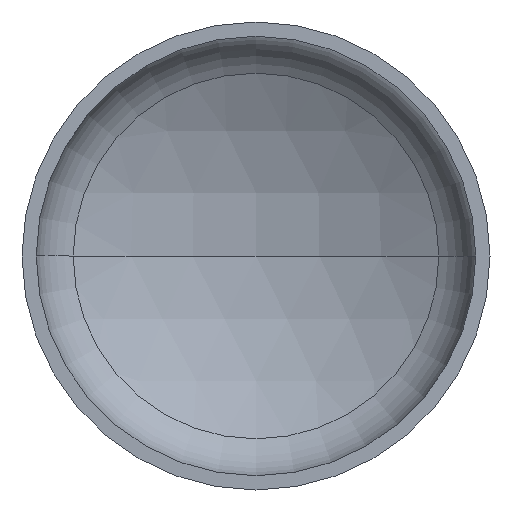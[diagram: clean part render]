
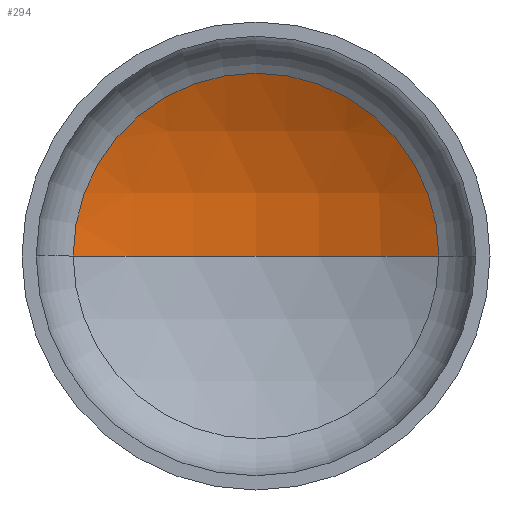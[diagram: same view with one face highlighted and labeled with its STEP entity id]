
A CAD part, front view. The second image highlights one B-rep face of the part: STEP entity #294.
In plain terms, the highlighted spherical face has radius 3040 mm.
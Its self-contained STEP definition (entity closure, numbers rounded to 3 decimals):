
#10 = CARTESIAN_POINT ( 'NONE',  ( 1484.709, 585.486, 0. ) ) ;
#12 = AXIS2_PLACEMENT_3D ( 'NONE', #223, #112, #386 ) ;
#15 = AXIS2_PLACEMENT_3D ( 'NONE', #248, #409, #181 ) ;
#16 = AXIS2_PLACEMENT_3D ( 'NONE', #144, #347, #350 ) ;
#20 = EDGE_LOOP ( 'NONE', ( #94, #87, #402 ) ) ;
#23 = AXIS2_PLACEMENT_3D ( 'NONE', #244, #145, #55 ) ;
#55 = DIRECTION ( 'NONE',  ( -1., 0., 0. ) ) ;
#87 = ORIENTED_EDGE ( 'NONE', *, *, #342, .T. ) ;
#94 = ORIENTED_EDGE ( 'NONE', *, *, #348, .F. ) ;
#103 = VERTEX_POINT ( 'NONE', #207 ) ;
#105 = VERTEX_POINT ( 'NONE', #202 ) ;
#112 = DIRECTION ( 'NONE',  ( 0., 0., 1. ) ) ;
#132 = FACE_OUTER_BOUND ( 'NONE', #20, .T. ) ;
#144 = CARTESIAN_POINT ( 'NONE',  ( 0., 585.486, 0. ) ) ;
#145 = DIRECTION ( 'NONE',  ( 0., 0., -1. ) ) ;
#169 = VERTEX_POINT ( 'NONE', #10 ) ;
#181 = DIRECTION ( 'NONE',  ( -1., 0., 0. ) ) ;
#202 = CARTESIAN_POINT ( 'NONE',  ( 0., 972.706, 0. ) ) ;
#207 = CARTESIAN_POINT ( 'NONE',  ( -1484.709, 585.486, 0. ) ) ;
#223 = CARTESIAN_POINT ( 'NONE',  ( 0., -2067.294, 0. ) ) ;
#224 = CIRCLE ( 'NONE', #16, 1484.709 ) ;
#244 = CARTESIAN_POINT ( 'NONE',  ( 0., -2067.294, 0. ) ) ;
#248 = CARTESIAN_POINT ( 'NONE',  ( 0., -2067.294, 0. ) ) ;
#281 = CIRCLE ( 'NONE', #12, 3040. ) ;
#290 = SPHERICAL_SURFACE ( 'NONE', #23, 3040. ) ;
#294 = ADVANCED_FACE ( 'NONE', ( #132 ), #290, .F. ) ;
#337 = EDGE_CURVE ( 'NONE', #169, #103, #224, .T. ) ;
#342 = EDGE_CURVE ( 'NONE', #105, #169, #346, .T. ) ;
#346 = CIRCLE ( 'NONE', #15, 3040. ) ;
#347 = DIRECTION ( 'NONE',  ( 0., -1., 0. ) ) ;
#348 = EDGE_CURVE ( 'NONE', #105, #103, #281, .T. ) ;
#350 = DIRECTION ( 'NONE',  ( 1., 0., 0. ) ) ;
#386 = DIRECTION ( 'NONE',  ( 1., 0., 0. ) ) ;
#402 = ORIENTED_EDGE ( 'NONE', *, *, #337, .T. ) ;
#409 = DIRECTION ( 'NONE',  ( 0., 0., -1. ) ) ;
